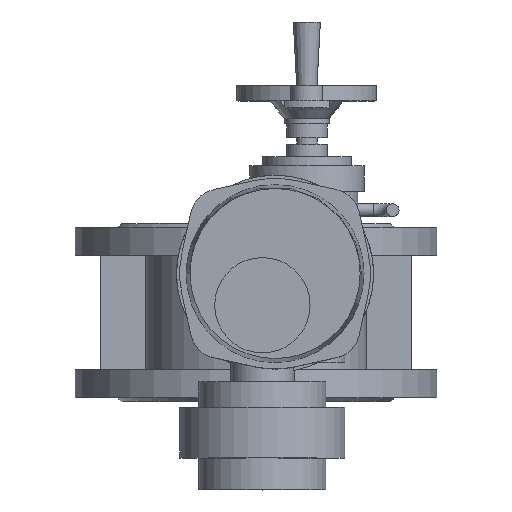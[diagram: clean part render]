
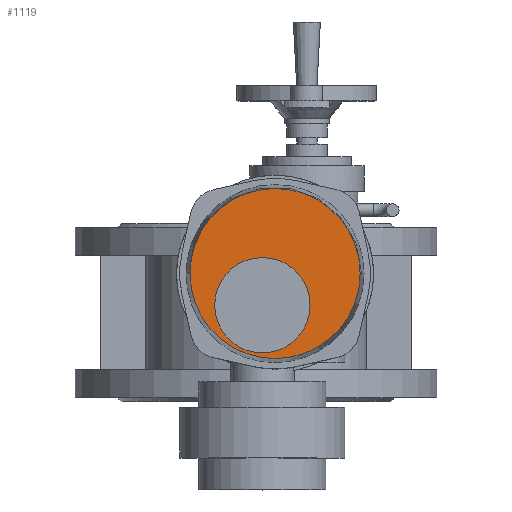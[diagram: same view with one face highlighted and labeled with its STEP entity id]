
A CAD part, top view. The second image highlights one B-rep face of the part: STEP entity #1119.
In plain terms, the highlighted planar face has unit normal (0, 0, 1).
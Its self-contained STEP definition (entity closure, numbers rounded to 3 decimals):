
#1119=ADVANCED_FACE('',(#2572,#2574),#2576,.T.);
#2572=FACE_BOUND('',#2573,.T.);
#2573=EDGE_LOOP('',(#3567));
#2574=FACE_BOUND('',#2575,.T.);
#2575=EDGE_LOOP('',(#3568));
#2576=PLANE('',#2577);
#2577=AXIS2_PLACEMENT_3D('',#2578,#2579,#2580);
#2578=CARTESIAN_POINT('',(15.,30.,432.));
#2579=DIRECTION('',(0.,0.,1.));
#2580=DIRECTION('',(-1.,0.,0.));
#3567=ORIENTED_EDGE('',*,*,#4048,.T.);
#3568=ORIENTED_EDGE('',*,*,#4113,.F.);
#4048=EDGE_CURVE('',#4611,#4611,#4612,.T.);
#4113=EDGE_CURVE('',#4721,#4721,#4722,.T.);
#4611=VERTEX_POINT('',#6650);
#4612=CIRCLE('',#6651,66.908);
#4721=VERTEX_POINT('',#7102);
#4722=CIRCLE('',#7103,37.5);
#6650=CARTESIAN_POINT('',(-51.908,30.,432.));
#6651=AXIS2_PLACEMENT_3D('',#6652,#6653,#6654);
#6652=CARTESIAN_POINT('',(15.,30.,432.));
#6653=DIRECTION('',(0.,0.,1.));
#6654=DIRECTION('',(-1.,0.,0.));
#7102=CARTESIAN_POINT('',(-32.5,5.,432.));
#7103=AXIS2_PLACEMENT_3D('',#7104,#7105,#7106);
#7104=CARTESIAN_POINT('',(5.,5.,432.));
#7105=DIRECTION('',(0.,0.,1.));
#7106=DIRECTION('',(-1.,0.,0.));
